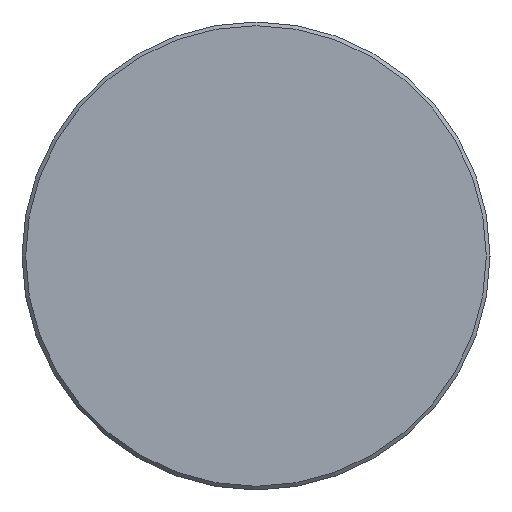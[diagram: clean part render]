
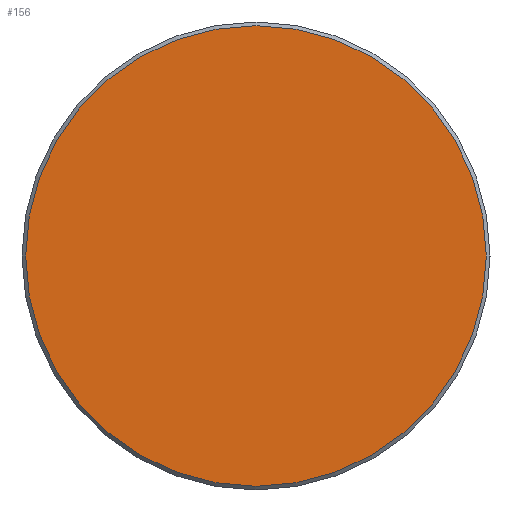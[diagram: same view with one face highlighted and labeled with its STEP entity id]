
A CAD part, left-side view. The second image highlights one B-rep face of the part: STEP entity #156.
In plain terms, the highlighted planar face has unit normal (-1, 0, 0).
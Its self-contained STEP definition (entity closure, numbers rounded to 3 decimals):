
#15=PLANE('',#201);
#36=FACE_OUTER_BOUND('',#45,.T.);
#45=EDGE_LOOP('',(#134));
#58=CIRCLE('',#195,31.);
#72=VERTEX_POINT('',#289);
#90=EDGE_CURVE('',#72,#72,#58,.T.);
#134=ORIENTED_EDGE('',*,*,#90,.F.);
#156=ADVANCED_FACE('',(#36),#15,.T.);
#195=AXIS2_PLACEMENT_3D('',#291,#243,#244);
#201=AXIS2_PLACEMENT_3D('',#300,#256,#257);
#243=DIRECTION('center_axis',(1.,0.,0.));
#244=DIRECTION('ref_axis',(0.,0.,-1.));
#256=DIRECTION('center_axis',(-1.,0.,0.));
#257=DIRECTION('ref_axis',(0.,0.,1.));
#289=CARTESIAN_POINT('',(0.,-31.,0.));
#291=CARTESIAN_POINT('Origin',(0.,0.,0.));
#300=CARTESIAN_POINT('Origin',(0.,31.,0.));
